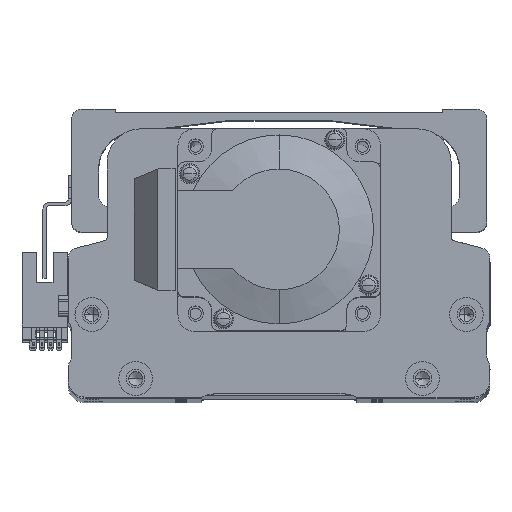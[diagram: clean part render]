
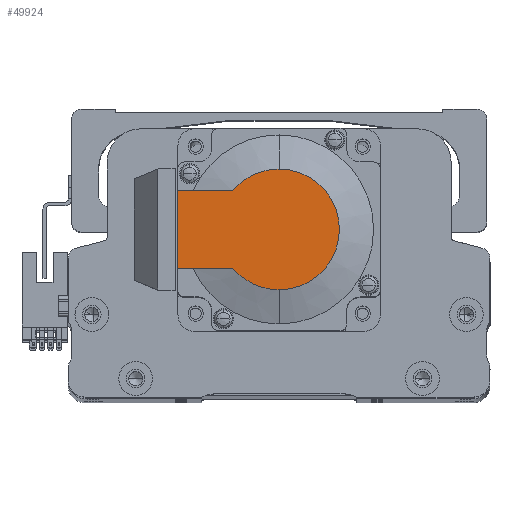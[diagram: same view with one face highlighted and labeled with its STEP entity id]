
A CAD part, top view. The second image highlights one B-rep face of the part: STEP entity #49924.
In plain terms, the highlighted planar face has unit normal (0, 0, 1) as drawn and (-1, 0, 0) by its records, which use the part's own axes.
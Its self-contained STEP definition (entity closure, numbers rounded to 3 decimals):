
#757 = ORIENTED_EDGE ( 'NONE', *, *, #33335, .T. ) ;
#2599 = VERTEX_POINT ( 'NONE', #51174 ) ;
#2854 = ORIENTED_EDGE ( 'NONE', *, *, #10630, .T. ) ;
#6357 = CARTESIAN_POINT ( 'NONE',  ( -118.5, 0., 0. ) ) ;
#6853 = VECTOR ( 'NONE', #39510, 1000. ) ;
#6997 = PLANE ( 'NONE',  #16885 ) ;
#7165 = CARTESIAN_POINT ( 'NONE',  ( -118.5, -8.941, 0. ) ) ;
#8525 = DIRECTION ( 'NONE',  ( -1., 0., 0. ) ) ;
#8876 = EDGE_CURVE ( 'NONE', #10631, #44631, #38171, .T. ) ;
#9949 = CARTESIAN_POINT ( 'NONE',  ( -118.5, -8.941, -11.45 ) ) ;
#10407 = DIRECTION ( 'NONE',  ( 0., 0., -1. ) ) ;
#10626 = CARTESIAN_POINT ( 'NONE',  ( -118.5, 0., 0. ) ) ;
#10630 = EDGE_CURVE ( 'NONE', #44631, #38387, #41126, .T. ) ;
#10631 = VERTEX_POINT ( 'NONE', #40725 ) ;
#11175 = CARTESIAN_POINT ( 'NONE',  ( -118.5, 0., 11.45 ) ) ;
#11218 = DIRECTION ( 'NONE',  ( 0., 0., 1. ) ) ;
#11418 = CARTESIAN_POINT ( 'NONE',  ( -118.5, 30., 25. ) ) ;
#11599 = CARTESIAN_POINT ( 'NONE',  ( -118.5, 30., 11.45 ) ) ;
#14693 = DIRECTION ( 'NONE',  ( 0., 0., -1. ) ) ;
#15478 = DIRECTION ( 'NONE',  ( 0., 0., 1. ) ) ;
#15742 = VECTOR ( 'NONE', #15478, 1000. ) ;
#16351 = LINE ( 'NONE', #11175, #6853 ) ;
#16885 = AXIS2_PLACEMENT_3D ( 'NONE', #7165, #35456, #11218 ) ;
#17906 = ORIENTED_EDGE ( 'NONE', *, *, #25964, .F. ) ;
#18395 = EDGE_CURVE ( 'NONE', #10631, #38303, #38563, .T. ) ;
#20923 = VERTEX_POINT ( 'NONE', #36103 ) ;
#21053 = ORIENTED_EDGE ( 'NONE', *, *, #23237, .T. ) ;
#23237 = EDGE_CURVE ( 'NONE', #20923, #2599, #36405, .T. ) ;
#25964 = EDGE_CURVE ( 'NONE', #38303, #2599, #16351, .T. ) ;
#26000 = AXIS2_PLACEMENT_3D ( 'NONE', #32749, #8525, #36851 ) ;
#26031 = DIRECTION ( 'NONE',  ( 0., -1., 0. ) ) ;
#27584 = FACE_OUTER_BOUND ( 'NONE', #49235, .T. ) ;
#30735 = AXIS2_PLACEMENT_3D ( 'NONE', #10626, #38963, #14693 ) ;
#32749 = CARTESIAN_POINT ( 'NONE',  ( -118.5, 0., 0. ) ) ;
#33128 = ORIENTED_EDGE ( 'NONE', *, *, #18395, .F. ) ;
#33318 = AXIS2_PLACEMENT_3D ( 'NONE', #6357, #34635, #10407 ) ;
#33335 = EDGE_CURVE ( 'NONE', #38387, #20923, #35758, .T. ) ;
#34635 = DIRECTION ( 'NONE',  ( -1., 0., 0. ) ) ;
#35456 = DIRECTION ( 'NONE',  ( -1., 0., 0. ) ) ;
#35758 = CIRCLE ( 'NONE', #33318, 17.881 ) ;
#36103 = CARTESIAN_POINT ( 'NONE',  ( -118.5, 0., 17.881 ) ) ;
#36375 = CARTESIAN_POINT ( 'NONE',  ( -118.5, 0., -17.881 ) ) ;
#36405 = CIRCLE ( 'NONE', #30735, 17.881 ) ;
#36851 = DIRECTION ( 'NONE',  ( 0., 0., -1. ) ) ;
#36899 = VECTOR ( 'NONE', #26031, 1000. ) ;
#38171 = LINE ( 'NONE', #9949, #36899 ) ;
#38303 = VERTEX_POINT ( 'NONE', #11599 ) ;
#38387 = VERTEX_POINT ( 'NONE', #36375 ) ;
#38563 = LINE ( 'NONE', #11418, #15742 ) ;
#38963 = DIRECTION ( 'NONE',  ( -1., 0., 0. ) ) ;
#39510 = DIRECTION ( 'NONE',  ( 0., -1., 0. ) ) ;
#40725 = CARTESIAN_POINT ( 'NONE',  ( -118.5, 30., -11.45 ) ) ;
#41126 = CIRCLE ( 'NONE', #26000, 17.881 ) ;
#42540 = ORIENTED_EDGE ( 'NONE', *, *, #8876, .T. ) ;
#43249 = CARTESIAN_POINT ( 'NONE',  ( -118.5, 13.735, -11.45 ) ) ;
#44631 = VERTEX_POINT ( 'NONE', #43249 ) ;
#49235 = EDGE_LOOP ( 'NONE', ( #42540, #2854, #757, #21053, #17906, #33128 ) ) ;
#49924 = ADVANCED_FACE ( 'NONE', ( #27584 ), #6997, .T. ) ;
#51174 = CARTESIAN_POINT ( 'NONE',  ( -118.5, 13.735, 11.45 ) ) ;
